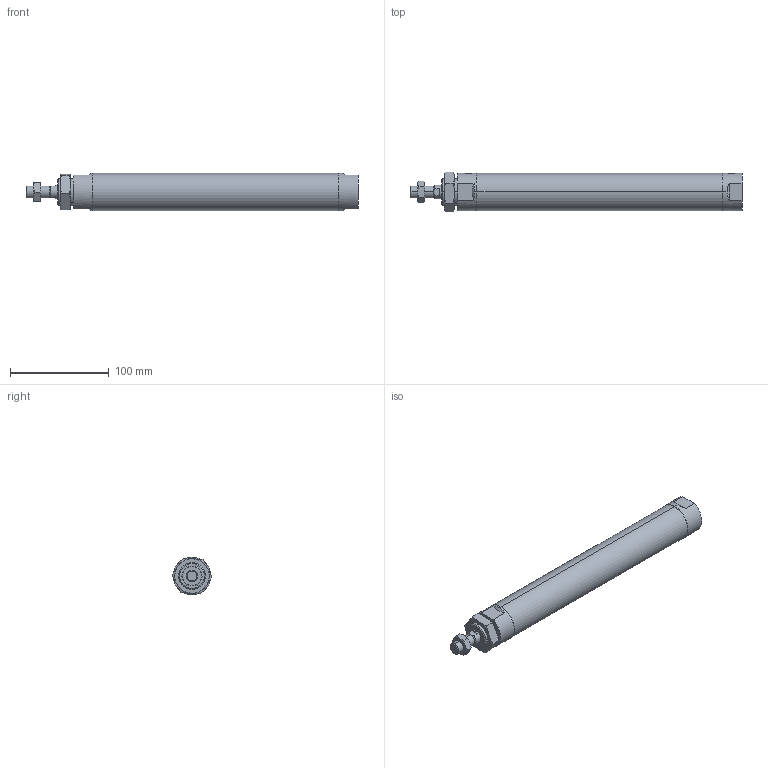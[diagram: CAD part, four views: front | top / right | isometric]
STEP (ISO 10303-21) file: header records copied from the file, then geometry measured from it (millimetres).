
FILE_DESCRIPTION (( 'STEP AP203' ), '1' );
FILE_NAME ('JGND2-32-200-N.STEP', '2016-08-04T02:57:32', ( '' ), ( '' ), 'SwSTEP 2.0', 'SolidWorks 2014', '' );
FILE_SCHEMA (( 'CONFIG_CONTROL_DESIGN' ));
Length unit declared in the file: millimetre
Products named in the file (4): J#2-32-200(P); JGND2-32-200-N
Assembly tree (3 placements, depth 2):
  JGND2-32-200-N
    J#2-32-200(P)
    (unnamed)
    (unnamed)
Bounding box: 337 x 40.33 x 38 mm (x, y, z)
Volume: 337854.2 mm3; surface area: 44340.8 mm2
Topology: 3 solids, 3 shells, 89 faces, 200 edges, 119 vertices
Faces by surface type: plane 32, torus 24, cylinder 20, cone 13
Entity records: 3321 total; most frequent: CARTESIAN_POINT 1017, DIRECTION 395, ORIENTED_EDGE 392, EDGE_CURVE 196, AXIS2_PLACEMENT_3D 167, VERTEX_POINT 119, EDGE_LOOP 99, FACE_OUTER_BOUND 89
